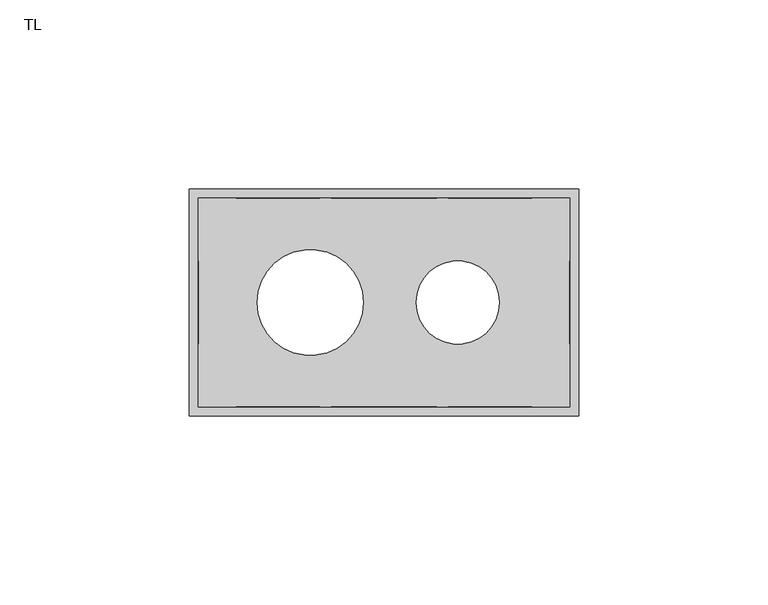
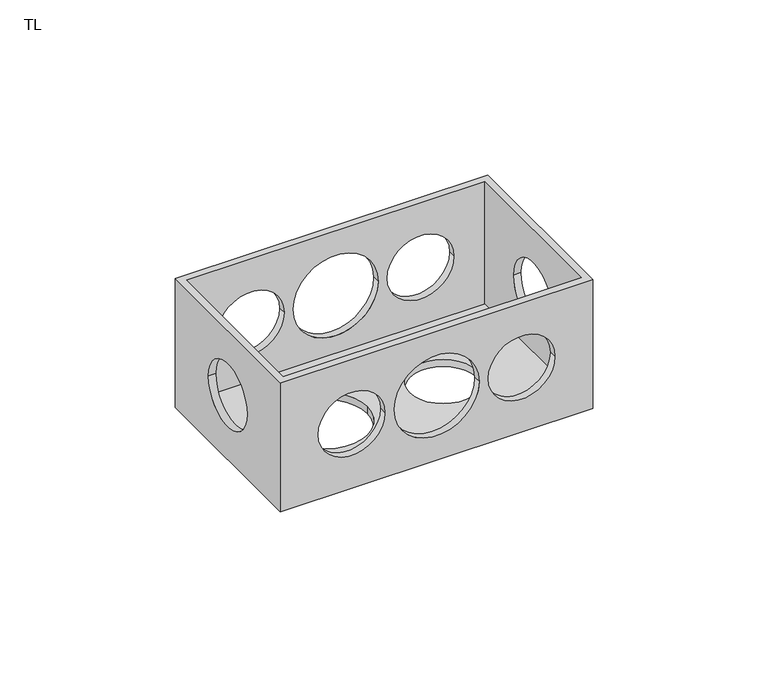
"""IFC4 building model written with IfcOpenShell, lengths in millimetres: cable carrier fitting geometry, PavcoWavin_ConduitFittings_CajaSencilla_Multipuerto : TL."""

from ifc_helpers import new_model, si_unit, frame, origin, place, context, project, spatial, polyline, circle_curve, source, transform, mapped, element, save
from ifc_brep_helpers import plane_surface, revolved_surface, advanced_brep


def tl_5f5f7a51(model_context):
    return source(origin(), model_context, "Body", "AdvancedBrep", [
        advanced_brep(
        [(51.5, 30.0, 22.5), (-51.5, 30.0, 22.5), (-51.5, -30.0, 22.5), (51.5, -30.0, 22.5), (49.1, 27.6, 22.5), (49.1, -27.6, 22.5), (-49.1, -27.6, 22.5), (-49.1, 27.6, 22.5), (51.5, 30.0, -22.5), (51.5, -30.0, -22.5), (-51.5, -30.0, -22.5), (-51.5, 30.0, -22.5), (-33.5, 0.0, -22.5), (-5.5, 0.0, -22.5), (8.5, 0.0, -22.5), (30.5, 0.0, -22.5), (-14.0, 30.0, 0.0), (14.0, 30.0, 0.0), (17.0, 30.0, 0.0), (39.0, 30.0, 0.0), (-39.0, 30.0, 0.0), (-17.0, 30.0, 0.0), (-51.5, -11.0, 0.0), (-51.5, 11.0, 0.0), (14.0, -30.0, 0.0), (-14.0, -30.0, 0.0), (39.0, -30.0, 0.0), (17.0, -30.0, 0.0), (-17.0, -30.0, 0.0), (-39.0, -30.0, 0.0), (51.5, 11.0, 0.0), (51.5, -11.0, 0.0), (49.1, -27.6, -20.1), (49.1, 27.6, -20.1), (-49.1, 27.6, -20.1), (-49.1, -27.6, -20.1), (-33.5, 0.0, -20.1), (-5.5, 0.0, -20.1), (8.5, 0.0, -20.1), (30.5, 0.0, -20.1), (49.1, -11.0, 0.0), (49.1, 11.0, 0.0), (14.0, 27.6, 0.0), (-14.0, 27.6, 0.0), (39.0, 27.6, 0.0), (17.0, 27.6, 0.0), (-17.0, 27.6, 0.0), (-39.0, 27.6, 0.0), (-49.1, 11.0, 0.0), (-49.1, -11.0, 0.0), (-14.0, -27.6, 0.0), (14.0, -27.6, 0.0), (17.0, -27.6, 0.0), (39.0, -27.6, 0.0), (-39.0, -27.6, 0.0), (-17.0, -27.6, 0.0)],
        [
            (0, 1),
            (1, 2),
            (2, 3),
            (3, 0),
            (4, 5),
            (5, 6),
            (6, 7),
            (7, 4),
            (8, 9),
            (9, 10),
            (10, 11),
            (11, 8),
            (12, 13, circle_curve(frame((-19.5, 0.0, -22.5), z_axis=(0.0, 0.0, 1.0), x_axis=(1.0, 0.0, 0.0)), 14.0)),
            (13, 12, circle_curve(frame((-19.5, 0.0, -22.5), z_axis=(0.0, 0.0, 1.0), x_axis=(1.0, 0.0, 0.0)), 14.0)),
            (14, 15, circle_curve(frame((19.5, 0.0, -22.5), z_axis=(0.0, 0.0, 1.0), x_axis=(1.0, 0.0, 0.0)), 11.0)),
            (15, 14, circle_curve(frame((19.5, 0.0, -22.5), z_axis=(0.0, 0.0, 1.0), x_axis=(1.0, 0.0, 0.0)), 11.0)),
            (0, 8),
            (11, 1),
            (16, 17, circle_curve(frame((0.0, 30.0, 0.0), z_axis=(0.0, -1.0, 0.0), x_axis=(1.0, 0.0, 0.0)), 14.0)),
            (17, 16, circle_curve(frame((0.0, 30.0, 0.0), z_axis=(0.0, -1.0, 0.0), x_axis=(1.0, 0.0, 0.0)), 14.0)),
            (18, 19, circle_curve(frame((28.0, 30.0, 0.0), z_axis=(0.0, -1.0, 0.0), x_axis=(1.0, 0.0, 0.0)), 11.0)),
            (19, 18, circle_curve(frame((28.0, 30.0, 0.0), z_axis=(0.0, -1.0, 0.0), x_axis=(1.0, 0.0, 0.0)), 11.0)),
            (20, 21, circle_curve(frame((-28.0, 30.0, 0.0), z_axis=(0.0, -1.0, 0.0), x_axis=(1.0, 0.0, 0.0)), 11.0)),
            (21, 20, circle_curve(frame((-28.0, 30.0, 0.0), z_axis=(0.0, -1.0, 0.0), x_axis=(1.0, 0.0, 0.0)), 11.0)),
            (10, 2),
            (22, 23, circle_curve(frame((-51.5, 0.0, 0.0), z_axis=(1.0, 0.0, 0.0), x_axis=(0.0, 1.0, 0.0)), 11.0)),
            (23, 22, circle_curve(frame((-51.5, 0.0, 0.0), z_axis=(1.0, 0.0, 0.0), x_axis=(0.0, 1.0, 0.0)), 11.0)),
            (9, 3),
            (24, 25, circle_curve(frame((0.0, -30.0, 0.0), z_axis=(0.0, 1.0, 0.0), x_axis=(1.0, 0.0, 0.0)), 14.0)),
            (25, 24, circle_curve(frame((0.0, -30.0, 0.0), z_axis=(0.0, 1.0, 0.0), x_axis=(1.0, 0.0, 0.0)), 14.0)),
            (26, 27, circle_curve(frame((28.0, -30.0, 0.0), z_axis=(0.0, 1.0, 0.0), x_axis=(1.0, 0.0, 0.0)), 11.0)),
            (27, 26, circle_curve(frame((28.0, -30.0, 0.0), z_axis=(0.0, 1.0, 0.0), x_axis=(1.0, 0.0, 0.0)), 11.0)),
            (28, 29, circle_curve(frame((-28.0, -30.0, 0.0), z_axis=(0.0, 1.0, 0.0), x_axis=(1.0, 0.0, 0.0)), 11.0)),
            (29, 28, circle_curve(frame((-28.0, -30.0, 0.0), z_axis=(0.0, 1.0, 0.0), x_axis=(1.0, 0.0, 0.0)), 11.0)),
            (30, 31, circle_curve(frame((51.5, 0.0, 0.0), z_axis=(-1.0, 0.0, 0.0), x_axis=(0.0, 1.0, 0.0)), 11.0)),
            (31, 30, circle_curve(frame((51.5, 0.0, 0.0), z_axis=(-1.0, 0.0, 0.0), x_axis=(0.0, 1.0, 0.0)), 11.0)),
            (32, 33),
            (33, 34),
            (34, 35),
            (35, 32),
            (36, 37, circle_curve(frame((-19.5, 0.0, -20.1), z_axis=(0.0, 0.0, -1.0), x_axis=(1.0, 0.0, 0.0)), 14.0)),
            (37, 36, circle_curve(frame((-19.5, 0.0, -20.1), z_axis=(0.0, 0.0, -1.0), x_axis=(1.0, 0.0, 0.0)), 14.0)),
            (38, 39, circle_curve(frame((19.5, 0.0, -20.1), z_axis=(0.0, 0.0, -1.0), x_axis=(1.0, 0.0, 0.0)), 11.0)),
            (39, 38, circle_curve(frame((19.5, 0.0, -20.1), z_axis=(0.0, 0.0, -1.0), x_axis=(1.0, 0.0, 0.0)), 11.0)),
            (32, 5),
            (4, 33),
            (40, 41, circle_curve(frame((49.1, 0.0, 0.0), z_axis=(1.0, 0.0, 0.0), x_axis=(0.0, 1.0, 0.0)), 11.0)),
            (41, 40, circle_curve(frame((49.1, 0.0, 0.0), z_axis=(1.0, 0.0, 0.0), x_axis=(0.0, 1.0, 0.0)), 11.0)),
            (7, 34),
            (42, 43, circle_curve(frame((0.0, 27.6, 0.0), z_axis=(0.0, 1.0, 0.0), x_axis=(1.0, 0.0, 0.0)), 14.0)),
            (43, 42, circle_curve(frame((0.0, 27.6, 0.0), z_axis=(0.0, 1.0, 0.0), x_axis=(1.0, 0.0, 0.0)), 14.0)),
            (44, 45, circle_curve(frame((28.0, 27.6, 0.0), z_axis=(0.0, 1.0, 0.0), x_axis=(1.0, 0.0, 0.0)), 11.0)),
            (45, 44, circle_curve(frame((28.0, 27.6, 0.0), z_axis=(0.0, 1.0, 0.0), x_axis=(1.0, 0.0, 0.0)), 11.0)),
            (46, 47, circle_curve(frame((-28.0, 27.6, 0.0), z_axis=(0.0, 1.0, 0.0), x_axis=(1.0, 0.0, 0.0)), 11.0)),
            (47, 46, circle_curve(frame((-28.0, 27.6, 0.0), z_axis=(0.0, 1.0, 0.0), x_axis=(1.0, 0.0, 0.0)), 11.0)),
            (6, 35),
            (48, 49, circle_curve(frame((-49.1, 0.0, 0.0), z_axis=(-1.0, 0.0, 0.0), x_axis=(0.0, 1.0, 0.0)), 11.0)),
            (49, 48, circle_curve(frame((-49.1, 0.0, 0.0), z_axis=(-1.0, 0.0, 0.0), x_axis=(0.0, 1.0, 0.0)), 11.0)),
            (50, 51, circle_curve(frame((0.0, -27.6, 0.0), z_axis=(0.0, -1.0, 0.0), x_axis=(1.0, 0.0, 0.0)), 14.0)),
            (51, 50, circle_curve(frame((0.0, -27.6, 0.0), z_axis=(0.0, -1.0, 0.0), x_axis=(1.0, 0.0, 0.0)), 14.0)),
            (52, 53, circle_curve(frame((28.0, -27.6, 0.0), z_axis=(0.0, -1.0, 0.0), x_axis=(1.0, 0.0, 0.0)), 11.0)),
            (53, 52, circle_curve(frame((28.0, -27.6, 0.0), z_axis=(0.0, -1.0, 0.0), x_axis=(1.0, 0.0, 0.0)), 11.0)),
            (54, 55, circle_curve(frame((-28.0, -27.6, 0.0), z_axis=(0.0, -1.0, 0.0), x_axis=(1.0, 0.0, 0.0)), 11.0)),
            (55, 54, circle_curve(frame((-28.0, -27.6, 0.0), z_axis=(0.0, -1.0, 0.0), x_axis=(1.0, 0.0, 0.0)), 11.0)),
            (13, 37),
            (36, 12),
            (15, 39),
            (38, 14),
            (16, 43),
            (42, 17),
            (50, 25),
            (24, 51),
            (18, 45),
            (44, 19),
            (52, 27),
            (26, 53),
            (20, 47),
            (46, 21),
            (54, 29),
            (28, 55),
            (40, 31),
            (30, 41),
            (22, 49),
            (48, 23),
        ],
        [
            plane_surface(frame((-51.5, 30.0, 22.5), z_axis=(0.0, 0.0, 1.0), x_axis=(-1.0, 0.0, 0.0))),
            plane_surface(frame((-51.5, 30.0, -22.5), z_axis=(0.0, 0.0, -1.0), x_axis=(1.0, 0.0, 0.0))),
            plane_surface(frame((51.5, 30.0, 22.5), z_axis=(0.0, 1.0, 0.0), x_axis=(0.0, 0.0, -1.0))),
            plane_surface(frame((-51.5, 30.0, 22.5), z_axis=(-1.0, 0.0, 0.0), x_axis=(0.0, 0.0, -1.0))),
            plane_surface(frame((-51.5, -30.0, 22.5), z_axis=(0.0, -1.0, 0.0), x_axis=(0.0, 0.0, -1.0))),
            plane_surface(frame((51.5, -30.0, 22.5), z_axis=(1.0, 0.0, 0.0), x_axis=(0.0, 0.0, -1.0))),
            plane_surface(frame((49.1, -20.4049627, -20.1), z_axis=(0.0, 0.0, 1.0), x_axis=(0.0, -1.0, 0.0))),
            plane_surface(frame((49.1, -27.6, 22.5), z_axis=(-1.0, 0.0, 0.0), x_axis=(0.0, 0.0, -1.0))),
            plane_surface(frame((49.1, 27.6, 22.5), z_axis=(0.0, -1.0, 0.0), x_axis=(0.0, 0.0, -1.0))),
            plane_surface(frame((-49.1, 27.6, 22.5), z_axis=(1.0, 0.0, 0.0), x_axis=(0.0, 0.0, -1.0))),
            plane_surface(frame((-49.1, -27.6, 22.5), z_axis=(0.0, 1.0, 0.0), x_axis=(0.0, 0.0, -1.0))),
            revolved_surface(polyline([(-5.5, 0.0, -22.5), (-5.5, 0.0, -20.1)]), (-19.5, 0.0, 0.0), (0.0, 0.0, -1.0)),
            revolved_surface(polyline([(30.5, 0.0, -22.5), (30.5, 0.0, -20.1)]), (19.5, 0.0, 0.0), (0.0, 0.0, -1.0)),
            revolved_surface(polyline([(14.0, 27.6, 0.0), (14.0, 30.0, 0.0)]), (0.0, 30.0, 0.0), (0.0, -1.0, 0.0)),
            revolved_surface(polyline([(14.0, -30.0, 0.0), (14.0, -27.6, 0.0)]), (0.0, 30.0, 0.0), (0.0, -1.0, 0.0)),
            revolved_surface(polyline([(39.0, 27.6, 0.0), (39.0, 30.0, 0.0)]), (28.0, 0.0, 0.0), (0.0, -1.0, 0.0)),
            revolved_surface(polyline([(39.0, -30.0, 0.0), (39.0, -27.6, 0.0)]), (28.0, 0.0, 0.0), (0.0, -1.0, 0.0)),
            revolved_surface(polyline([(-17.0, 27.6, 0.0), (-17.0, 30.0, 0.0)]), (-28.0, 0.0, 0.0), (0.0, -1.0, 0.0)),
            revolved_surface(polyline([(-17.0, -30.0, 0.0), (-17.0, -27.6, 0.0)]), (-28.0, 0.0, 0.0), (0.0, -1.0, 0.0)),
            revolved_surface(polyline([(51.5, 11.0, 0.0), (49.099999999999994, 11.0, 0.0)]), (-51.5, 0.0, 0.0), (1.0, 0.0, 0.0)),
            revolved_surface(polyline([(-49.1, 11.0, 0.0), (-51.5, 11.0, 0.0)]), (-51.5, 0.0, 0.0), (1.0, 0.0, 0.0)),
        ],
        [
            (0, [[1, 2, 3, 4], [5, 6, 7, 8]]),
            (1, [[9, 10, 11, 12], [13, 14], [15, 16]]),
            (2, [[-1, 17, -12, 18], [19, 20], [21, 22], [23, 24]]),
            (3, [[-2, -18, -11, 25], [26, 27]]),
            (4, [[-3, -25, -10, 28], [29, 30], [31, 32], [33, 34]]),
            (5, [[-4, -28, -9, -17], [35, 36]]),
            (6, [[37, 38, 39, 40], [41, 42], [43, 44]]),
            (7, [[-37, 45, -5, 46], [47, 48]]),
            (8, [[-38, -46, -8, 49], [50, 51], [52, 53], [54, 55]]),
            (9, [[-39, -49, -7, 56], [57, 58]]),
            (10, [[-40, -56, -6, -45], [59, 60], [61, 62], [63, 64]]),
            (11, [[-14, 65, -41, 66]]),
            (11, [[-13, -66, -42, -65]]),
            (12, [[-16, 67, -43, 68]]),
            (12, [[-15, -68, -44, -67]]),
            (13, [[69, -50, 70, -19]]),
            (14, [[71, -29, 72, -59]]),
            (13, [[-69, -20, -70, -51]]),
            (14, [[-71, -60, -72, -30]]),
            (15, [[73, -52, 74, -21]]),
            (16, [[75, -31, 76, -61]]),
            (15, [[-73, -22, -74, -53]]),
            (16, [[-75, -62, -76, -32]]),
            (17, [[77, -54, 78, -23]]),
            (18, [[79, -33, 80, -63]]),
            (17, [[-77, -24, -78, -55]]),
            (18, [[-79, -64, -80, -34]]),
            (19, [[81, -35, 82, -47]]),
            (20, [[83, -57, 84, -26]]),
            (19, [[-81, -48, -82, -36]]),
            (20, [[-83, -27, -84, -58]]),
        ],
    ),
    ])


if __name__ == "__main__":
    model = new_model("IFC4")
    model_context = context("Model", 3, world=origin())
    ifc_project = project(units=[si_unit("LENGTHUNIT", "METRE", prefix="MILLI")], contexts=[model_context])
    site = spatial("IfcSite", under=ifc_project)
    building = spatial("IfcBuilding", under=site)
    placement = place(None, origin())
    tl_shape = tl_5f5f7a51(model_context)
    element("IfcCableCarrierFitting", 1, ObjectType="PavcoWavin_ConduitFittings_CajaSencilla_Multipuerto : TL", at=placement, inside=building, context=model_context, shape_type="MappedRepresentation", body=[
        mapped(tl_shape, transform((0.0, 0.0, 0.0), x_axis=(1.0, 0.0, 0.0), y_axis=(0.0, 1.0, 0.0), z_axis=(0.0, 0.0, 1.0))),
    ])
    save(model, "model.ifc")
